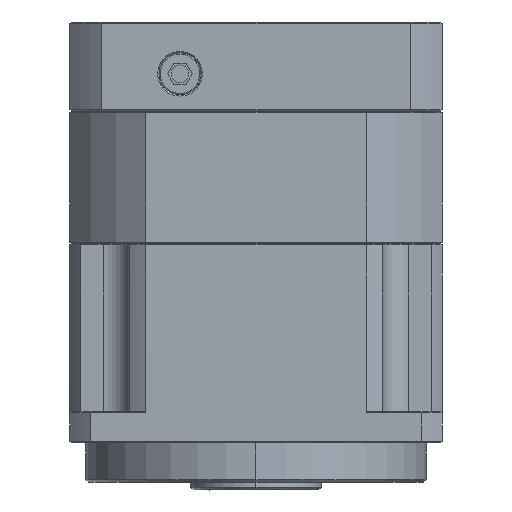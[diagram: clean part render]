
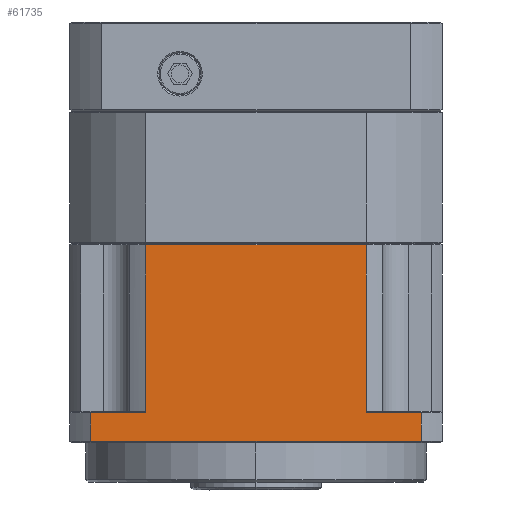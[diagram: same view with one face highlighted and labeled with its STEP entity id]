
A CAD part, left-side view. The second image highlights one B-rep face of the part: STEP entity #61735.
In plain terms, the highlighted planar face has unit normal (1, 0, 0).
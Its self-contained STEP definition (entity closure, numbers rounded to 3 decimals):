
#384 = VERTEX_POINT ( 'NONE', #19097 ) ;
#574 = CARTESIAN_POINT ( 'NONE',  ( -71., -63.119, 11.5 ) ) ;
#2077 = CARTESIAN_POINT ( 'NONE',  ( -71., 63.119, 6. ) ) ;
#3584 = EDGE_CURVE ( 'NONE', #8452, #384, #62767, .T. ) ;
#4178 = LINE ( 'NONE', #34787, #22509 ) ;
#6494 = VECTOR ( 'NONE', #47306, 1000. ) ;
#7384 = EDGE_CURVE ( 'NONE', #39218, #60576, #16622, .T. ) ;
#7543 = CARTESIAN_POINT ( 'NONE',  ( -71., 0., 75.5 ) ) ;
#8452 = VERTEX_POINT ( 'NONE', #50173 ) ;
#9017 = ORIENTED_EDGE ( 'NONE', *, *, #78612, .F. ) ;
#10070 = EDGE_CURVE ( 'NONE', #384, #32154, #24700, .T. ) ;
#12539 = CARTESIAN_POINT ( 'NONE',  ( -71., -42.015, 75.5 ) ) ;
#13120 = DIRECTION ( 'NONE',  ( 0., 1., 0. ) ) ;
#14251 = VECTOR ( 'NONE', #79023, 1000. ) ;
#16329 = LINE ( 'NONE', #57988, #14251 ) ;
#16622 = LINE ( 'NONE', #54357, #87685 ) ;
#18984 = EDGE_CURVE ( 'NONE', #23318, #39218, #16329, .T. ) ;
#19097 = CARTESIAN_POINT ( 'NONE',  ( -71., -63.119, 0.5 ) ) ;
#20428 = EDGE_CURVE ( 'NONE', #32154, #22747, #4178, .T. ) ;
#21567 = CARTESIAN_POINT ( 'NONE',  ( -71., 0., 0.5 ) ) ;
#22509 = VECTOR ( 'NONE', #83280, 1000. ) ;
#22747 = VERTEX_POINT ( 'NONE', #35962 ) ;
#23318 = VERTEX_POINT ( 'NONE', #40053 ) ;
#24555 = ORIENTED_EDGE ( 'NONE', *, *, #48884, .F. ) ;
#24700 = LINE ( 'NONE', #67786, #6494 ) ;
#28189 = FACE_OUTER_BOUND ( 'NONE', #36488, .T. ) ;
#28476 = DIRECTION ( 'NONE',  ( 0., -1., 0. ) ) ;
#29078 = ORIENTED_EDGE ( 'NONE', *, *, #18984, .F. ) ;
#30498 = CARTESIAN_POINT ( 'NONE',  ( -71., 42.015, 11.5 ) ) ;
#30887 = ORIENTED_EDGE ( 'NONE', *, *, #10070, .F. ) ;
#32154 = VERTEX_POINT ( 'NONE', #574 ) ;
#34787 = CARTESIAN_POINT ( 'NONE',  ( -71., 0., 11.5 ) ) ;
#34931 = CARTESIAN_POINT ( 'NONE',  ( -71., -63.119, 0.5 ) ) ;
#35148 = ORIENTED_EDGE ( 'NONE', *, *, #36273, .T. ) ;
#35418 = ORIENTED_EDGE ( 'NONE', *, *, #20428, .F. ) ;
#35435 = DIRECTION ( 'NONE',  ( 0., 1., 0. ) ) ;
#35962 = CARTESIAN_POINT ( 'NONE',  ( -71., -42.015, 11.5 ) ) ;
#36273 = EDGE_CURVE ( 'NONE', #8452, #60576, #76181, .T. ) ;
#36488 = EDGE_LOOP ( 'NONE', ( #30887, #85529, #35148, #80368, #29078, #9017, #24555, #35418 ) ) ;
#38799 = LINE ( 'NONE', #7543, #75462 ) ;
#39218 = VERTEX_POINT ( 'NONE', #30498 ) ;
#40053 = CARTESIAN_POINT ( 'NONE',  ( -71., 42.015, 75.5 ) ) ;
#41918 = DIRECTION ( 'NONE',  ( 0., 1., 0. ) ) ;
#44370 = VECTOR ( 'NONE', #28476, 1000. ) ;
#47306 = DIRECTION ( 'NONE',  ( 0., 0., 1. ) ) ;
#48275 = PLANE ( 'NONE',  #49215 ) ;
#48884 = EDGE_CURVE ( 'NONE', #22747, #72753, #72471, .T. ) ;
#49215 = AXIS2_PLACEMENT_3D ( 'NONE', #34931, #83110, #41918 ) ;
#50173 = CARTESIAN_POINT ( 'NONE',  ( -71., 63.119, 0.5 ) ) ;
#54357 = CARTESIAN_POINT ( 'NONE',  ( -71., 0., 11.5 ) ) ;
#57988 = CARTESIAN_POINT ( 'NONE',  ( -71., 42.015, 38. ) ) ;
#60576 = VERTEX_POINT ( 'NONE', #73102 ) ;
#61735 = ADVANCED_FACE ( 'NONE', ( #28189 ), #48275, .T. ) ;
#62767 = LINE ( 'NONE', #21567, #44370 ) ;
#63945 = DIRECTION ( 'NONE',  ( 0., 0., 1. ) ) ;
#67786 = CARTESIAN_POINT ( 'NONE',  ( -71., -63.119, 38. ) ) ;
#72471 = LINE ( 'NONE', #84316, #86389 ) ;
#72753 = VERTEX_POINT ( 'NONE', #12539 ) ;
#73102 = CARTESIAN_POINT ( 'NONE',  ( -71., 63.119, 11.5 ) ) ;
#73985 = VECTOR ( 'NONE', #84768, 1000. ) ;
#75462 = VECTOR ( 'NONE', #35435, 1000. ) ;
#76181 = LINE ( 'NONE', #2077, #73985 ) ;
#78612 = EDGE_CURVE ( 'NONE', #72753, #23318, #38799, .T. ) ;
#79023 = DIRECTION ( 'NONE',  ( 0., 0., -1. ) ) ;
#80368 = ORIENTED_EDGE ( 'NONE', *, *, #7384, .F. ) ;
#83110 = DIRECTION ( 'NONE',  ( 1., 0., 0. ) ) ;
#83280 = DIRECTION ( 'NONE',  ( 0., 1., 0. ) ) ;
#84316 = CARTESIAN_POINT ( 'NONE',  ( -71., -42.015, 38. ) ) ;
#84768 = DIRECTION ( 'NONE',  ( 0., 0., 1. ) ) ;
#85529 = ORIENTED_EDGE ( 'NONE', *, *, #3584, .F. ) ;
#86389 = VECTOR ( 'NONE', #63945, 1000. ) ;
#87685 = VECTOR ( 'NONE', #13120, 1000. ) ;
